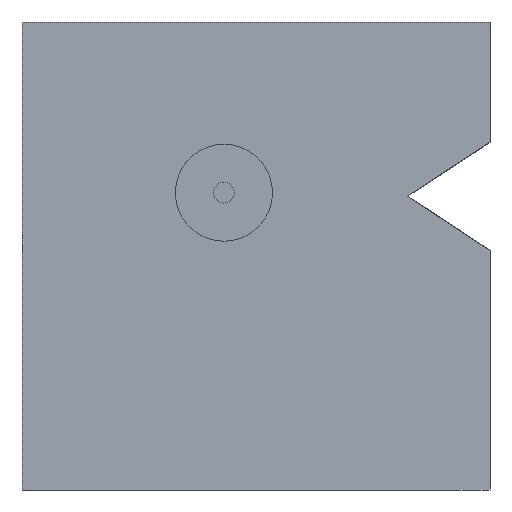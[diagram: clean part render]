
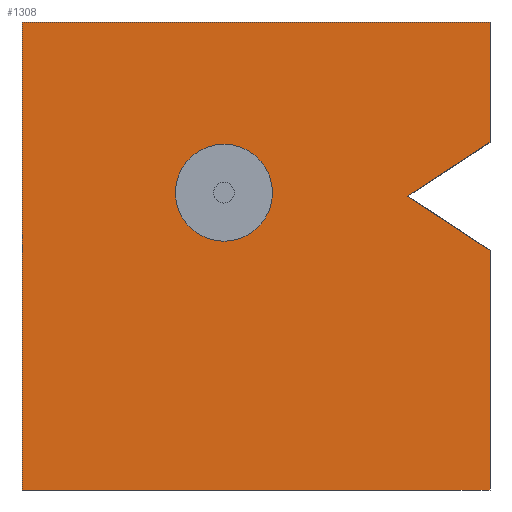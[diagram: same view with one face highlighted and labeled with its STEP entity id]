
A CAD part, front view. The second image highlights one B-rep face of the part: STEP entity #1308.
In plain terms, the highlighted planar face has unit normal (0, -1, 0).
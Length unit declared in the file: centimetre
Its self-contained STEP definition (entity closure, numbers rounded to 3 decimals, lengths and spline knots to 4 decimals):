
#33 = CARTESIAN_POINT ( 'NONE',  ( 0., 0., 1000. ) ) ;
#43 = CARTESIAN_POINT ( 'NONE',  ( 0., 0., 1000. ) ) ;
#44 = VECTOR ( 'NONE', #775, 100. ) ;
#55 = CARTESIAN_POINT ( 'NONE',  ( 0., 0., 1000. ) ) ;
#57 = ORIENTED_EDGE ( 'NONE', *, *, #1390, .T. ) ;
#109 = DIRECTION ( 'NONE',  ( 0., 0., -1. ) ) ;
#127 = AXIS2_PLACEMENT_3D ( 'NONE', #1213, #700, #1471 ) ;
#128 = CARTESIAN_POINT ( 'NONE',  ( 1000., 0., 1000. ) ) ;
#151 = DIRECTION ( 'NONE',  ( 1., 0., 0. ) ) ;
#183 = VERTEX_POINT ( 'NONE', #1450 ) ;
#199 = EDGE_CURVE ( 'NONE', #370, #1524, #259, .T. ) ;
#205 = LINE ( 'NONE', #1111, #1337 ) ;
#250 = VECTOR ( 'NONE', #1353, 100. ) ;
#258 = EDGE_CURVE ( 'NONE', #685, #1524, #652, .T. ) ;
#259 = LINE ( 'NONE', #1435, #44 ) ;
#271 = CARTESIAN_POINT ( 'NONE',  ( 431.5133, 0., 738.9555 ) ) ;
#315 = DIRECTION ( 'NONE',  ( 0., 0., -1. ) ) ;
#333 = CARTESIAN_POINT ( 'NONE',  ( 1000., 0., 512.2939 ) ) ;
#366 = DIRECTION ( 'NONE',  ( -0.836, 0., 0.549 ) ) ;
#370 = VERTEX_POINT ( 'NONE', #333 ) ;
#371 = CARTESIAN_POINT ( 'NONE',  ( 431.5133, 0., 635.2708 ) ) ;
#377 = CARTESIAN_POINT ( 'NONE',  ( 1000., 0., 0. ) ) ;
#389 = ORIENTED_EDGE ( 'NONE', *, *, #663, .F. ) ;
#443 = EDGE_CURVE ( 'NONE', #1421, #1239, #1125, .T. ) ;
#445 = DIRECTION ( 'NONE',  ( 0., 1., 0. ) ) ;
#458 = ORIENTED_EDGE ( 'NONE', *, *, #443, .T. ) ;
#468 = ORIENTED_EDGE ( 'NONE', *, *, #750, .T. ) ;
#481 = DIRECTION ( 'NONE',  ( 0.836, 0., 0.549 ) ) ;
#531 = AXIS2_PLACEMENT_3D ( 'NONE', #33, #445, #1602 ) ;
#594 = ORIENTED_EDGE ( 'NONE', *, *, #655, .F. ) ;
#652 = LINE ( 'NONE', #914, #1226 ) ;
#655 = EDGE_CURVE ( 'NONE', #725, #183, #1489, .T. ) ;
#663 = EDGE_CURVE ( 'NONE', #1375, #950, #1549, .T. ) ;
#669 = VECTOR ( 'NONE', #109, 100. ) ;
#685 = VERTEX_POINT ( 'NONE', #968 ) ;
#700 = DIRECTION ( 'NONE',  ( 0., -1., 0. ) ) ;
#720 = CARTESIAN_POINT ( 'NONE',  ( 431.5133, 0., 531.5861 ) ) ;
#725 = VERTEX_POINT ( 'NONE', #55 ) ;
#729 = FACE_OUTER_BOUND ( 'NONE', #1133, .T. ) ;
#750 = EDGE_CURVE ( 'NONE', #370, #1421, #205, .T. ) ;
#775 = DIRECTION ( 'NONE',  ( 0., 0., -1. ) ) ;
#783 = DIRECTION ( 'NONE',  ( 0., 0., -1. ) ) ;
#914 = CARTESIAN_POINT ( 'NONE',  ( 0., 0., 0. ) ) ;
#950 = VERTEX_POINT ( 'NONE', #271 ) ;
#963 = PLANE ( 'NONE',  #531 ) ;
#968 = CARTESIAN_POINT ( 'NONE',  ( 0., 0., 0. ) ) ;
#970 = ORIENTED_EDGE ( 'NONE', *, *, #258, .T. ) ;
#980 = ORIENTED_EDGE ( 'NONE', *, *, #986, .F. ) ;
#986 = EDGE_CURVE ( 'NONE', #183, #1239, #1309, .T. ) ;
#1005 = EDGE_LOOP ( 'NONE', ( #389, #1581 ) ) ;
#1111 = CARTESIAN_POINT ( 'NONE',  ( 1000., 0., 512.2939 ) ) ;
#1125 = LINE ( 'NONE', #1144, #1547 ) ;
#1130 = EDGE_CURVE ( 'NONE', #950, #1375, #1216, .T. ) ;
#1133 = EDGE_LOOP ( 'NONE', ( #468, #458, #980, #594, #57, #970, #1301 ) ) ;
#1144 = CARTESIAN_POINT ( 'NONE',  ( 824.4586, 0., 627.6296 ) ) ;
#1213 = CARTESIAN_POINT ( 'NONE',  ( 431.5133, 0., 635.2708 ) ) ;
#1216 = CIRCLE ( 'NONE', #1670, 103.6847 ) ;
#1221 = CARTESIAN_POINT ( 'NONE',  ( 0., 0., 1000. ) ) ;
#1226 = VECTOR ( 'NONE', #151, 100. ) ;
#1239 = VERTEX_POINT ( 'NONE', #1280 ) ;
#1253 = FACE_BOUND ( 'NONE', #1005, .T. ) ;
#1280 = CARTESIAN_POINT ( 'NONE',  ( 1000., 0., 742.9654 ) ) ;
#1301 = ORIENTED_EDGE ( 'NONE', *, *, #199, .F. ) ;
#1308 = ADVANCED_FACE ( 'NONE', ( #1253, #729 ), #963, .F. ) ;
#1309 = LINE ( 'NONE', #128, #669 ) ;
#1337 = VECTOR ( 'NONE', #366, 100. ) ;
#1353 = DIRECTION ( 'NONE',  ( 1., 0., 0. ) ) ;
#1373 = VECTOR ( 'NONE', #315, 100. ) ;
#1375 = VERTEX_POINT ( 'NONE', #720 ) ;
#1389 = CARTESIAN_POINT ( 'NONE',  ( 824.4586, 0., 627.6296 ) ) ;
#1390 = EDGE_CURVE ( 'NONE', #725, #685, #1476, .T. ) ;
#1421 = VERTEX_POINT ( 'NONE', #1389 ) ;
#1435 = CARTESIAN_POINT ( 'NONE',  ( 1000., 0., 1000. ) ) ;
#1450 = CARTESIAN_POINT ( 'NONE',  ( 1000., 0., 1000. ) ) ;
#1471 = DIRECTION ( 'NONE',  ( 0., 0., -1. ) ) ;
#1476 = LINE ( 'NONE', #43, #1373 ) ;
#1489 = LINE ( 'NONE', #1221, #250 ) ;
#1524 = VERTEX_POINT ( 'NONE', #377 ) ;
#1547 = VECTOR ( 'NONE', #481, 100. ) ;
#1549 = CIRCLE ( 'NONE', #127, 103.6847 ) ;
#1557 = DIRECTION ( 'NONE',  ( 0., -1., 0. ) ) ;
#1581 = ORIENTED_EDGE ( 'NONE', *, *, #1130, .F. ) ;
#1602 = DIRECTION ( 'NONE',  ( 0., 0., 1. ) ) ;
#1670 = AXIS2_PLACEMENT_3D ( 'NONE', #371, #1557, #783 ) ;
